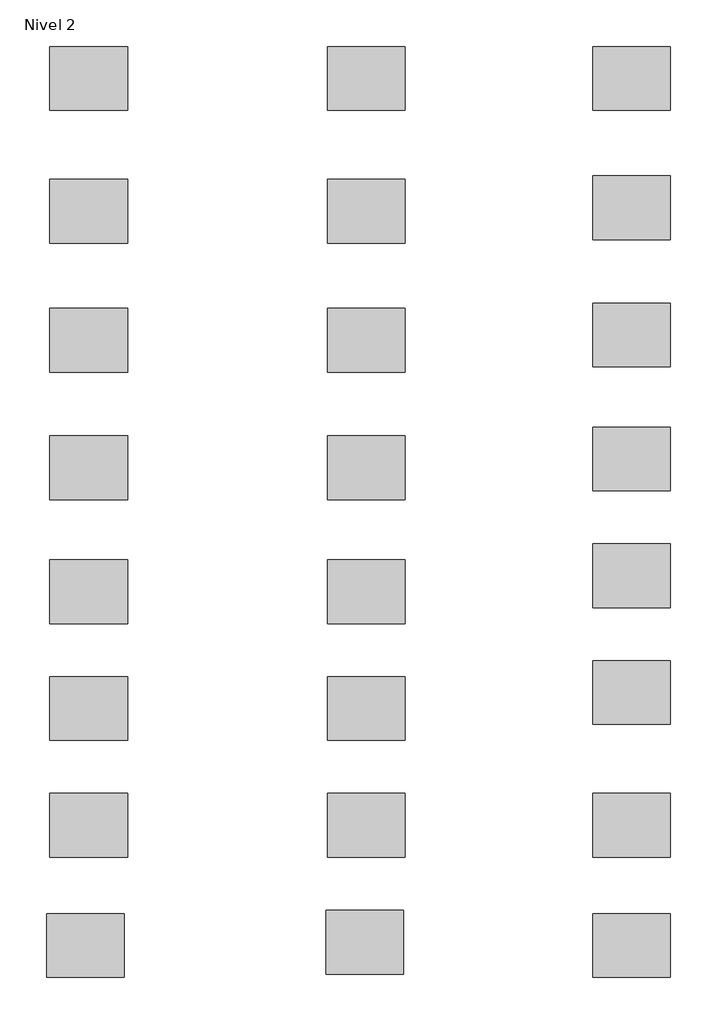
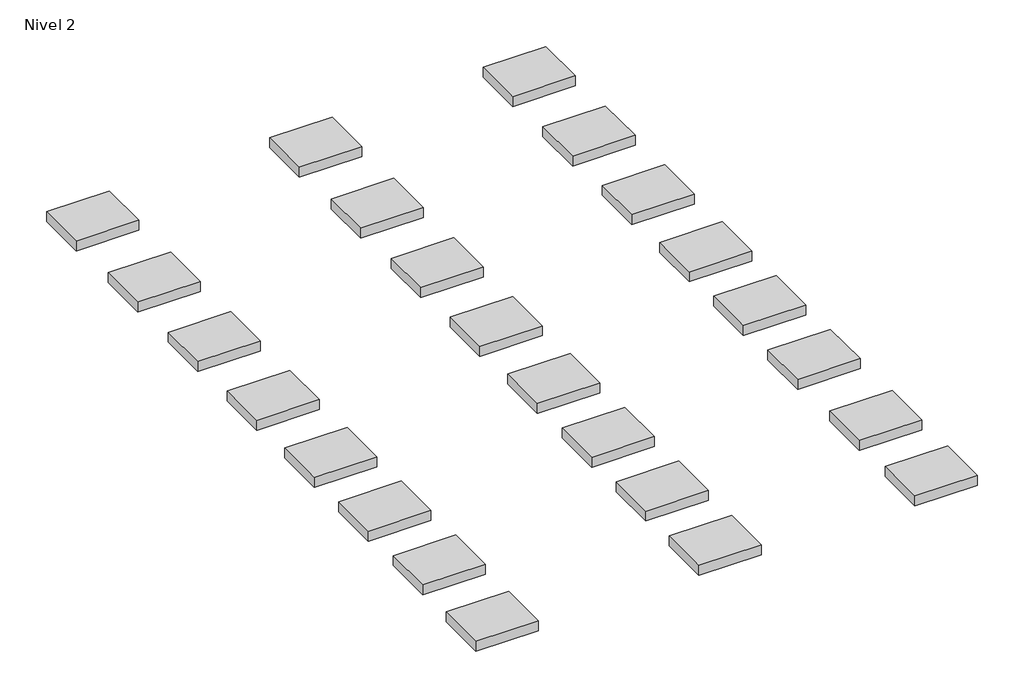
# One storey: 24 furniture elements.
"""IFC4 building model written with IfcOpenShell, lengths in millimetres."""

from ifc_helpers import new_model, si_unit, origin, place, context, project, spatial, transform, mapped, element, save
from components import furniture_fc90d0a3

model = new_model("IFC4")

# Units and contexts
model_context = context("Model", 3, world=origin())
ifc_project = project(units=[si_unit("LENGTHUNIT", "METRE", prefix="MILLI")], contexts=[model_context])

# Site, building, storey
site = spatial("IfcSite", under=ifc_project)
building = spatial("IfcBuilding", under=site)
storey = spatial("IfcBuildingStorey", under=building, Name="Nivel 2", Elevation=4000.0)

# Furniture
placement = place(None, origin())
furniture_shape = furniture_fc90d0a3(model_context)
element("IfcFurniture", 1, ObjectType="Nuriel : Nuriel 10", at=placement, inside=storey, context=model_context, shape_type="MappedRepresentation", body=[
    mapped(furniture_shape, transform((-9674.6867993, 5160.919512, 4000.0), x_axis=(1.0, 0.0, 0.0), y_axis=(0.0, 1.0, 0.0), z_axis=(0.0, 0.0, 1.0))),
])
element("IfcFurniture", 2, ObjectType="Nuriel : Nuriel 28", at=placement, inside=storey, context=model_context, shape_type="MappedRepresentation", body=[
    mapped(furniture_shape, transform((-9674.6867993, 2628.1002461, 4000.0), x_axis=(1.0, 0.0, 0.0), y_axis=(0.0, 1.0, 0.0), z_axis=(0.0, 0.0, 1.0))),
])
element("IfcFurniture", 3, ObjectType="Nuriel : Nuriel 30", at=placement, inside=storey, context=model_context, shape_type="MappedRepresentation", body=[
    mapped(furniture_shape, transform((-9674.6867993, 162.8228274, 4000.0), x_axis=(1.0, 0.0, 0.0), y_axis=(0.0, 1.0, 0.0), z_axis=(0.0, 0.0, 1.0))),
])
element("IfcFurniture", 4, ObjectType="Nuriel : Nuriel 32", at=placement, inside=storey, context=model_context, shape_type="MappedRepresentation", body=[
    mapped(furniture_shape, transform((-9674.6867993, -2268.6836678, 4000.0), x_axis=(1.0, 0.0, 0.0), y_axis=(0.0, 1.0, 0.0), z_axis=(0.0, 0.0, 1.0))),
])
element("IfcFurniture", 5, ObjectType="Nuriel : Nuriel 51", at=placement, inside=storey, context=model_context, shape_type="MappedRepresentation", body=[
    mapped(furniture_shape, transform((-9674.6867993, -4632.6483159, 4000.0), x_axis=(1.0, 0.0, 0.0), y_axis=(0.0, 1.0, 0.0), z_axis=(0.0, 0.0, 1.0))),
])
element("IfcFurniture", 6, ObjectType="Nuriel : Nuriel 56", at=placement, inside=storey, context=model_context, shape_type="MappedRepresentation", body=[
    mapped(furniture_shape, transform((-9674.6867993, -6861.5292699, 4000.0), x_axis=(1.0, 0.0, 0.0), y_axis=(0.0, 1.0, 0.0), z_axis=(0.0, 0.0, 1.0))),
])
element("IfcFurniture", 7, ObjectType="Nuriel : Nuriel 60", at=placement, inside=storey, context=model_context, shape_type="MappedRepresentation", body=[
    mapped(furniture_shape, transform((-9674.6867993, -9090.4102238, 4000.0), x_axis=(1.0, 0.0, 0.0), y_axis=(0.0, 1.0, 0.0), z_axis=(0.0, 0.0, 1.0))),
])
element("IfcFurniture", 8, ObjectType="Nuriel : Nuriel 90", at=placement, inside=storey, context=model_context, shape_type="MappedRepresentation", body=[
    mapped(furniture_shape, transform((-4374.6867993, 5160.919512, 4000.0), x_axis=(1.0, 0.0, 0.0), y_axis=(0.0, 1.0, 0.0), z_axis=(0.0, 0.0, 1.0))),
])
element("IfcFurniture", 9, ObjectType="Nuriel : Nuriel 248", at=placement, inside=storey, context=model_context, shape_type="MappedRepresentation", body=[
    mapped(furniture_shape, transform((-4374.6867993, 2628.1002461, 4000.0), x_axis=(1.0, 0.0, 0.0), y_axis=(0.0, 1.0, 0.0), z_axis=(0.0, 0.0, 1.0))),
])
element("IfcFurniture", 10, ObjectType="Nuriel : Nuriel 271", at=placement, inside=storey, context=model_context, shape_type="MappedRepresentation", body=[
    mapped(furniture_shape, transform((-4374.6867993, 162.8228274, 4000.0), x_axis=(1.0, 0.0, 0.0), y_axis=(0.0, 1.0, 0.0), z_axis=(0.0, 0.0, 1.0))),
])
element("IfcFurniture", 11, ObjectType="Nuriel : Nuriel 300", at=placement, inside=storey, context=model_context, shape_type="MappedRepresentation", body=[
    mapped(furniture_shape, transform((-4374.6867993, -2268.6836678, 4000.0), x_axis=(1.0, 0.0, 0.0), y_axis=(0.0, 1.0, 0.0), z_axis=(0.0, 0.0, 1.0))),
])
element("IfcFurniture", 12, ObjectType="Nuriel : Nuriel 305", at=placement, inside=storey, context=model_context, shape_type="MappedRepresentation", body=[
    mapped(furniture_shape, transform((-4374.6867993, -4632.6483159, 4000.0), x_axis=(1.0, 0.0, 0.0), y_axis=(0.0, 1.0, 0.0), z_axis=(0.0, 0.0, 1.0))),
])
element("IfcFurniture", 13, ObjectType="Nuriel : Nuriel 314", at=placement, inside=storey, context=model_context, shape_type="MappedRepresentation", body=[
    mapped(furniture_shape, transform((-4374.6867993, -6861.5292699, 4000.0), x_axis=(1.0, 0.0, 0.0), y_axis=(0.0, 1.0, 0.0), z_axis=(0.0, 0.0, 1.0))),
])
element("IfcFurniture", 14, ObjectType="Nuriel : Nuriel 341", at=placement, inside=storey, context=model_context, shape_type="MappedRepresentation", body=[
    mapped(furniture_shape, transform((-4374.6867993, -9090.4102238, 4000.0), x_axis=(1.0, 0.0, 0.0), y_axis=(0.0, 1.0, 0.0), z_axis=(0.0, 0.0, 1.0))),
])
element("IfcFurniture", 15, ObjectType="Nuriel : Nuriel 342", at=placement, inside=storey, context=model_context, shape_type="MappedRepresentation", body=[
    mapped(furniture_shape, transform((690.2295066, 5160.919512, 4000.0), x_axis=(1.0, 0.0, 0.0), y_axis=(0.0, 1.0, 0.0), z_axis=(0.0, 0.0, 1.0))),
])
element("IfcFurniture", 16, ObjectType="Nuriel : Nuriel 347", at=placement, inside=storey, context=model_context, shape_type="MappedRepresentation", body=[
    mapped(furniture_shape, transform((690.2295066, 2695.6420932, 4000.0), x_axis=(1.0, 0.0, 0.0), y_axis=(0.0, 1.0, 0.0), z_axis=(0.0, 0.0, 1.0))),
])
element("IfcFurniture", 17, ObjectType="Nuriel : Nuriel 348", at=placement, inside=storey, context=model_context, shape_type="MappedRepresentation", body=[
    mapped(furniture_shape, transform((690.2295066, 264.135598, 4000.0), x_axis=(1.0, 0.0, 0.0), y_axis=(0.0, 1.0, 0.0), z_axis=(0.0, 0.0, 1.0))),
])
element("IfcFurniture", 18, ObjectType="Nuriel : Nuriel 349", at=placement, inside=storey, context=model_context, shape_type="MappedRepresentation", body=[
    mapped(furniture_shape, transform((690.2295066, -2099.8290501, 4000.0), x_axis=(1.0, 0.0, 0.0), y_axis=(0.0, 1.0, 0.0), z_axis=(0.0, 0.0, 1.0))),
])
element("IfcFurniture", 19, ObjectType="Nuriel : Nuriel 395", at=placement, inside=storey, context=model_context, shape_type="MappedRepresentation", body=[
    mapped(furniture_shape, transform((690.2295066, -4328.710004, 4000.0), x_axis=(1.0, 0.0, 0.0), y_axis=(0.0, 1.0, 0.0), z_axis=(0.0, 0.0, 1.0))),
])
element("IfcFurniture", 20, ObjectType="Nuriel : Nuriel 407", at=placement, inside=storey, context=model_context, shape_type="MappedRepresentation", body=[
    mapped(furniture_shape, transform((690.2295066, -6557.590958, 4000.0), x_axis=(1.0, 0.0, 0.0), y_axis=(0.0, 1.0, 0.0), z_axis=(0.0, 0.0, 1.0))),
])
element("IfcFurniture", 21, ObjectType="Nuriel : Nuriel 710", at=placement, inside=storey, context=model_context, shape_type="MappedRepresentation", body=[
    mapped(furniture_shape, transform((690.2295066, -9090.4102238, 4000.0), x_axis=(1.0, 0.0, 0.0), y_axis=(0.0, 1.0, 0.0), z_axis=(0.0, 0.0, 1.0))),
])
element("IfcFurniture", 22, ObjectType="Nuriel : Nuriel 732", at=placement, inside=storey, context=model_context, shape_type="MappedRepresentation", body=[
    mapped(furniture_shape, transform((-9740.457012, -11386.8330248, 4000.0), x_axis=(1.0, 0.0, 0.0), y_axis=(0.0, 1.0, 0.0), z_axis=(0.0, 0.0, 1.0))),
])
element("IfcFurniture", 23, ObjectType="Nuriel : Nuriel 790", at=placement, inside=storey, context=model_context, shape_type="MappedRepresentation", body=[
    mapped(furniture_shape, transform((-4404.651092, -11323.2294896, 4000.0), x_axis=(1.0, 0.0, 0.0), y_axis=(0.0, 1.0, 0.0), z_axis=(0.0, 0.0, 1.0))),
])
element("IfcFurniture", 24, ObjectType="Nuriel : Nuriel 795", at=placement, inside=storey, context=model_context, shape_type="MappedRepresentation", body=[
    mapped(furniture_shape, transform((690.2295066, -11386.8330248, 4000.0), x_axis=(1.0, 0.0, 0.0), y_axis=(0.0, 1.0, 0.0), z_axis=(0.0, 0.0, 1.0))),
])

save(model, "model.ifc")
